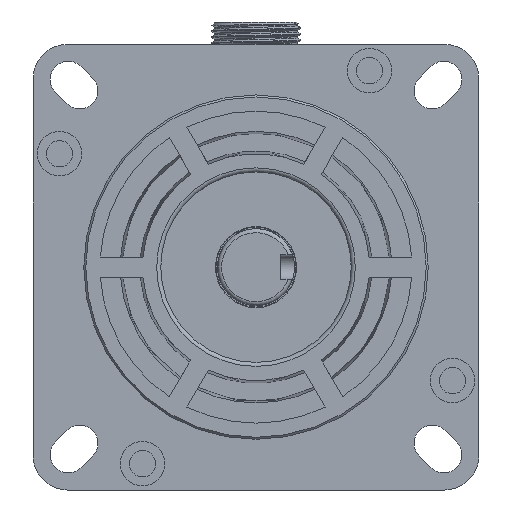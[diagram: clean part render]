
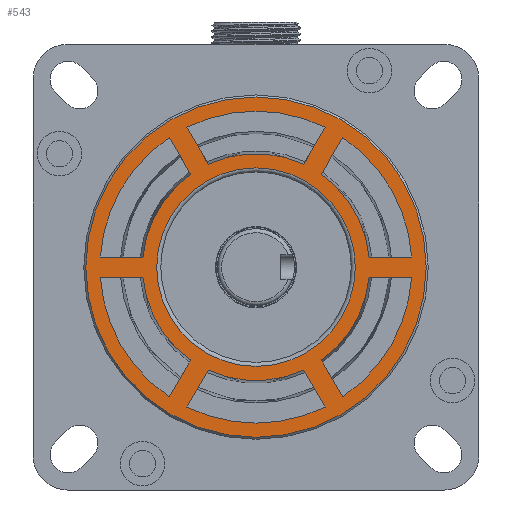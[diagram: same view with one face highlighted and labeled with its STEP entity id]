
A CAD part, front view. The second image highlights one B-rep face of the part: STEP entity #543.
In plain terms, the highlighted planar face has unit normal (0, -1, 0).
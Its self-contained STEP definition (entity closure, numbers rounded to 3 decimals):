
#346=FACE_BOUND('',#1242,.T.);
#347=FACE_BOUND('',#1243,.T.);
#348=FACE_BOUND('',#1244,.T.);
#349=FACE_BOUND('',#1245,.T.);
#350=FACE_BOUND('',#1246,.T.);
#351=FACE_BOUND('',#1247,.T.);
#352=FACE_BOUND('',#1248,.T.);
#353=FACE_BOUND('',#1249,.T.);
#543=ADVANCED_FACE('',(#346,#347,#348,#349,#350,#351,#352,#353),#758,.T.);
#758=PLANE('',#5247);
#1242=EDGE_LOOP('',(#2728));
#1243=EDGE_LOOP('',(#2729,#2730,#2731,#2732));
#1244=EDGE_LOOP('',(#2733,#2734,#2735,#2736));
#1245=EDGE_LOOP('',(#2737,#2738,#2739,#2740));
#1246=EDGE_LOOP('',(#2741,#2742,#2743,#2744));
#1247=EDGE_LOOP('',(#2745,#2746,#2747,#2748));
#1248=EDGE_LOOP('',(#2749,#2750,#2751,#2752));
#1249=EDGE_LOOP('',(#2753));
#1593=LINE('',#7809,#1955);
#1594=LINE('',#7814,#1956);
#1595=LINE('',#7820,#1957);
#1596=LINE('',#7824,#1958);
#1597=LINE('',#7828,#1959);
#1598=LINE('',#7832,#1960);
#1599=LINE('',#7836,#1961);
#1600=LINE('',#7840,#1962);
#1601=LINE('',#7841,#1963);
#1602=LINE('',#7846,#1964);
#1603=LINE('',#7852,#1965);
#1604=LINE('',#7856,#1966);
#1955=VECTOR('',#6208,1.);
#1956=VECTOR('',#6211,1.);
#1957=VECTOR('',#6216,1.);
#1958=VECTOR('',#6219,1.);
#1959=VECTOR('',#6222,1.);
#1960=VECTOR('',#6225,1.);
#1961=VECTOR('',#6228,1.);
#1962=VECTOR('',#6231,1.);
#1963=VECTOR('',#6232,1.);
#1964=VECTOR('',#6235,1.);
#1965=VECTOR('',#6240,1.);
#1966=VECTOR('',#6243,1.);
#2728=ORIENTED_EDGE('',*,*,#4294,.T.);
#2729=ORIENTED_EDGE('',*,*,#4295,.F.);
#2730=ORIENTED_EDGE('',*,*,#4296,.F.);
#2731=ORIENTED_EDGE('',*,*,#4297,.F.);
#2732=ORIENTED_EDGE('',*,*,#4298,.F.);
#2733=ORIENTED_EDGE('',*,*,#4299,.F.);
#2734=ORIENTED_EDGE('',*,*,#4300,.F.);
#2735=ORIENTED_EDGE('',*,*,#4301,.F.);
#2736=ORIENTED_EDGE('',*,*,#4302,.F.);
#2737=ORIENTED_EDGE('',*,*,#4303,.F.);
#2738=ORIENTED_EDGE('',*,*,#4304,.F.);
#2739=ORIENTED_EDGE('',*,*,#4305,.F.);
#2740=ORIENTED_EDGE('',*,*,#4306,.F.);
#2741=ORIENTED_EDGE('',*,*,#4307,.F.);
#2742=ORIENTED_EDGE('',*,*,#4308,.F.);
#2743=ORIENTED_EDGE('',*,*,#4309,.F.);
#2744=ORIENTED_EDGE('',*,*,#4310,.F.);
#2745=ORIENTED_EDGE('',*,*,#4311,.F.);
#2746=ORIENTED_EDGE('',*,*,#4312,.F.);
#2747=ORIENTED_EDGE('',*,*,#4313,.F.);
#2748=ORIENTED_EDGE('',*,*,#4314,.F.);
#2749=ORIENTED_EDGE('',*,*,#4315,.F.);
#2750=ORIENTED_EDGE('',*,*,#4316,.F.);
#2751=ORIENTED_EDGE('',*,*,#4317,.F.);
#2752=ORIENTED_EDGE('',*,*,#4318,.F.);
#2753=ORIENTED_EDGE('',*,*,#4319,.T.);
#3743=VERTEX_POINT('',#7808);
#3744=VERTEX_POINT('',#7810);
#3745=VERTEX_POINT('',#7811);
#3746=VERTEX_POINT('',#7813);
#3747=VERTEX_POINT('',#7815);
#3748=VERTEX_POINT('',#7818);
#3749=VERTEX_POINT('',#7819);
#3750=VERTEX_POINT('',#7821);
#3751=VERTEX_POINT('',#7823);
#3752=VERTEX_POINT('',#7826);
#3753=VERTEX_POINT('',#7827);
#3754=VERTEX_POINT('',#7829);
#3755=VERTEX_POINT('',#7831);
#3756=VERTEX_POINT('',#7834);
#3757=VERTEX_POINT('',#7835);
#3758=VERTEX_POINT('',#7837);
#3759=VERTEX_POINT('',#7839);
#3760=VERTEX_POINT('',#7842);
#3761=VERTEX_POINT('',#7843);
#3762=VERTEX_POINT('',#7845);
#3763=VERTEX_POINT('',#7847);
#3764=VERTEX_POINT('',#7850);
#3765=VERTEX_POINT('',#7851);
#3766=VERTEX_POINT('',#7853);
#3767=VERTEX_POINT('',#7855);
#3768=VERTEX_POINT('',#7858);
#4294=EDGE_CURVE('',#3743,#3743,#4823,.T.);
#4295=EDGE_CURVE('',#3744,#3745,#1593,.T.);
#4296=EDGE_CURVE('',#3746,#3744,#4824,.T.);
#4297=EDGE_CURVE('',#3747,#3746,#1594,.T.);
#4298=EDGE_CURVE('',#3745,#3747,#4825,.T.);
#4299=EDGE_CURVE('',#3748,#3749,#4826,.T.);
#4300=EDGE_CURVE('',#3750,#3748,#1595,.T.);
#4301=EDGE_CURVE('',#3751,#3750,#4827,.T.);
#4302=EDGE_CURVE('',#3749,#3751,#1596,.T.);
#4303=EDGE_CURVE('',#3752,#3753,#4828,.T.);
#4304=EDGE_CURVE('',#3754,#3752,#1597,.T.);
#4305=EDGE_CURVE('',#3755,#3754,#4829,.T.);
#4306=EDGE_CURVE('',#3753,#3755,#1598,.T.);
#4307=EDGE_CURVE('',#3756,#3757,#4830,.T.);
#4308=EDGE_CURVE('',#3758,#3756,#1599,.T.);
#4309=EDGE_CURVE('',#3759,#3758,#4831,.T.);
#4310=EDGE_CURVE('',#3757,#3759,#1600,.T.);
#4311=EDGE_CURVE('',#3760,#3761,#1601,.T.);
#4312=EDGE_CURVE('',#3762,#3760,#4832,.T.);
#4313=EDGE_CURVE('',#3763,#3762,#1602,.T.);
#4314=EDGE_CURVE('',#3761,#3763,#4833,.T.);
#4315=EDGE_CURVE('',#3764,#3765,#4834,.T.);
#4316=EDGE_CURVE('',#3766,#3764,#1603,.T.);
#4317=EDGE_CURVE('',#3767,#3766,#4835,.T.);
#4318=EDGE_CURVE('',#3765,#3767,#1604,.T.);
#4319=EDGE_CURVE('',#3768,#3768,#4836,.T.);
#4823=CIRCLE('',#5233,42.);
#4824=CIRCLE('',#5234,38.5);
#4825=CIRCLE('',#5235,28.);
#4826=CIRCLE('',#5236,38.5);
#4827=CIRCLE('',#5237,28.);
#4828=CIRCLE('',#5238,38.5);
#4829=CIRCLE('',#5239,28.);
#4830=CIRCLE('',#5240,38.5);
#4831=CIRCLE('',#5241,28.);
#4832=CIRCLE('',#5242,38.5);
#4833=CIRCLE('',#5243,28.);
#4834=CIRCLE('',#5244,38.5);
#4835=CIRCLE('',#5245,28.);
#4836=CIRCLE('',#5246,24.5);
#5233=AXIS2_PLACEMENT_3D('',#7807,#6206,#6207);
#5234=AXIS2_PLACEMENT_3D('',#7812,#6209,#6210);
#5235=AXIS2_PLACEMENT_3D('',#7816,#6212,#6213);
#5236=AXIS2_PLACEMENT_3D('',#7817,#6214,#6215);
#5237=AXIS2_PLACEMENT_3D('',#7822,#6217,#6218);
#5238=AXIS2_PLACEMENT_3D('',#7825,#6220,#6221);
#5239=AXIS2_PLACEMENT_3D('',#7830,#6223,#6224);
#5240=AXIS2_PLACEMENT_3D('',#7833,#6226,#6227);
#5241=AXIS2_PLACEMENT_3D('',#7838,#6229,#6230);
#5242=AXIS2_PLACEMENT_3D('',#7844,#6233,#6234);
#5243=AXIS2_PLACEMENT_3D('',#7848,#6236,#6237);
#5244=AXIS2_PLACEMENT_3D('',#7849,#6238,#6239);
#5245=AXIS2_PLACEMENT_3D('',#7854,#6241,#6242);
#5246=AXIS2_PLACEMENT_3D('',#7857,#6244,#6245);
#5247=AXIS2_PLACEMENT_3D('',#7859,#6246,#6247);
#6206=DIRECTION('',(0.,-1.,0.));
#6207=DIRECTION('',(0.,0.,-1.));
#6208=DIRECTION('',(-1.,0.,0.));
#6209=DIRECTION('',(0.,-1.,0.));
#6210=DIRECTION('',(1.,0.,0.));
#6211=DIRECTION('',(0.5,0.,-0.866));
#6212=DIRECTION('',(0.,1.,0.));
#6213=DIRECTION('',(1.,0.,0.));
#6214=DIRECTION('',(0.,-1.,0.));
#6215=DIRECTION('',(1.,0.,0.));
#6216=DIRECTION('',(1.,0.,0.));
#6217=DIRECTION('',(0.,1.,0.));
#6218=DIRECTION('',(1.,0.,0.));
#6219=DIRECTION('',(-0.5,0.,-0.866));
#6220=DIRECTION('',(0.,-1.,0.));
#6221=DIRECTION('',(1.,0.,0.));
#6222=DIRECTION('',(0.5,0.,0.866));
#6223=DIRECTION('',(0.,1.,0.));
#6224=DIRECTION('',(1.,0.,0.));
#6225=DIRECTION('',(0.5,0.,-0.866));
#6226=DIRECTION('',(0.,-1.,0.));
#6227=DIRECTION('',(1.,0.,0.));
#6228=DIRECTION('',(-0.5,0.,0.866));
#6229=DIRECTION('',(0.,1.,0.));
#6230=DIRECTION('',(1.,0.,0.));
#6231=DIRECTION('',(1.,0.,0.));
#6232=DIRECTION('',(0.5,0.,0.866));
#6233=DIRECTION('',(0.,-1.,0.));
#6234=DIRECTION('',(1.,0.,0.));
#6235=DIRECTION('',(-1.,0.,0.));
#6236=DIRECTION('',(0.,1.,0.));
#6237=DIRECTION('',(1.,0.,0.));
#6238=DIRECTION('',(0.,-1.,0.));
#6239=DIRECTION('',(1.,0.,0.));
#6240=DIRECTION('',(-0.5,0.,-0.866));
#6241=DIRECTION('',(0.,1.,0.));
#6242=DIRECTION('',(1.,0.,0.));
#6243=DIRECTION('',(-0.5,0.,0.866));
#6244=DIRECTION('',(0.,1.,0.));
#6245=DIRECTION('',(1.,0.,0.));
#6246=DIRECTION('',(0.,-1.,0.));
#6247=DIRECTION('',(-1.,0.,0.));
#7807=CARTESIAN_POINT('',(-196.062,5.034,-206.034));
#7808=CARTESIAN_POINT('',(-196.062,5.034,-248.034));
#7809=CARTESIAN_POINT('',(-196.062,5.034,-208.534));
#7810=CARTESIAN_POINT('',(-157.644,5.034,-208.534));
#7811=CARTESIAN_POINT('',(-168.174,5.034,-208.534));
#7812=CARTESIAN_POINT('',(-196.062,5.034,-206.034));
#7813=CARTESIAN_POINT('',(-174.688,5.034,-238.055));
#7814=CARTESIAN_POINT('',(-193.897,5.034,-204.784));
#7815=CARTESIAN_POINT('',(-179.953,5.034,-228.936));
#7816=CARTESIAN_POINT('',(-196.062,5.034,-206.034));
#7817=CARTESIAN_POINT('',(-196.062,5.034,-206.034));
#7818=CARTESIAN_POINT('',(-157.644,5.034,-203.534));
#7819=CARTESIAN_POINT('',(-174.688,5.034,-174.012));
#7820=CARTESIAN_POINT('',(-196.062,5.034,-203.534));
#7821=CARTESIAN_POINT('',(-168.174,5.034,-203.534));
#7822=CARTESIAN_POINT('',(-196.062,5.034,-206.034));
#7823=CARTESIAN_POINT('',(-179.953,5.034,-183.132));
#7824=CARTESIAN_POINT('',(-193.897,5.034,-207.284));
#7825=CARTESIAN_POINT('',(-196.062,5.034,-206.034));
#7826=CARTESIAN_POINT('',(-179.018,5.034,-171.512));
#7827=CARTESIAN_POINT('',(-213.107,5.034,-171.512));
#7828=CARTESIAN_POINT('',(-198.228,5.034,-204.784));
#7829=CARTESIAN_POINT('',(-184.283,5.034,-180.632));
#7830=CARTESIAN_POINT('',(-196.062,5.034,-206.034));
#7831=CARTESIAN_POINT('',(-207.841,5.034,-180.632));
#7832=CARTESIAN_POINT('',(-193.897,5.034,-204.784));
#7833=CARTESIAN_POINT('',(-196.062,5.034,-206.034));
#7834=CARTESIAN_POINT('',(-217.437,5.034,-174.012));
#7835=CARTESIAN_POINT('',(-234.481,5.034,-203.534));
#7836=CARTESIAN_POINT('',(-198.228,5.034,-207.284));
#7837=CARTESIAN_POINT('',(-212.172,5.034,-183.132));
#7838=CARTESIAN_POINT('',(-196.062,5.034,-206.034));
#7839=CARTESIAN_POINT('',(-223.951,5.034,-203.534));
#7840=CARTESIAN_POINT('',(-196.062,5.034,-203.534));
#7841=CARTESIAN_POINT('',(-198.228,5.034,-204.784));
#7842=CARTESIAN_POINT('',(-217.437,5.034,-238.055));
#7843=CARTESIAN_POINT('',(-212.172,5.034,-228.936));
#7844=CARTESIAN_POINT('',(-196.062,5.034,-206.034));
#7845=CARTESIAN_POINT('',(-234.481,5.034,-208.534));
#7846=CARTESIAN_POINT('',(-196.062,5.034,-208.534));
#7847=CARTESIAN_POINT('',(-223.951,5.034,-208.534));
#7848=CARTESIAN_POINT('',(-196.062,5.034,-206.034));
#7849=CARTESIAN_POINT('',(-196.062,5.034,-206.034));
#7850=CARTESIAN_POINT('',(-213.107,5.034,-240.555));
#7851=CARTESIAN_POINT('',(-179.018,5.034,-240.555));
#7852=CARTESIAN_POINT('',(-193.897,5.034,-207.284));
#7853=CARTESIAN_POINT('',(-207.841,5.034,-231.436));
#7854=CARTESIAN_POINT('',(-196.062,5.034,-206.034));
#7855=CARTESIAN_POINT('',(-184.283,5.034,-231.436));
#7856=CARTESIAN_POINT('',(-198.228,5.034,-207.284));
#7857=CARTESIAN_POINT('',(-196.062,5.034,-206.034));
#7858=CARTESIAN_POINT('',(-171.562,5.034,-206.034));
#7859=CARTESIAN_POINT('',(-196.062,5.034,-206.034));
